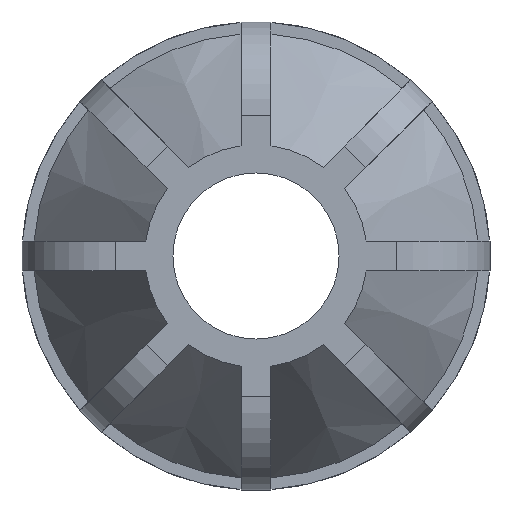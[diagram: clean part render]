
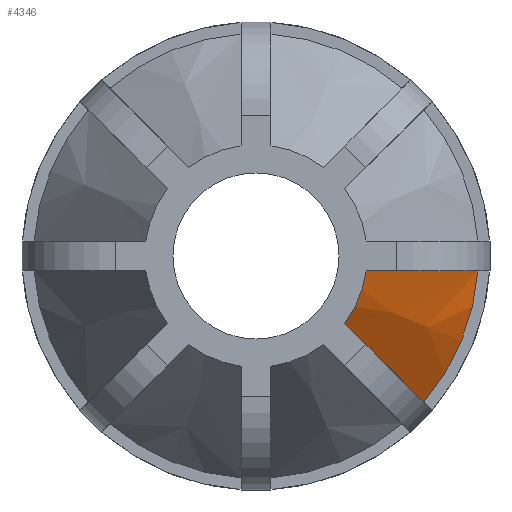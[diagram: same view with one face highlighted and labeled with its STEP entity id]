
A CAD part, left-side view. The second image highlights one B-rep face of the part: STEP entity #4346.
In plain terms, the highlighted conical face has half-angle 33.814 degrees and reference radius 42.717 mm.
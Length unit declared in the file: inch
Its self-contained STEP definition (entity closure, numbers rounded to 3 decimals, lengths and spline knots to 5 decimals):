
#25=CONICAL_SURFACE('',#4693,1.68177,0.59);
#99=(
BOUNDED_CURVE()
B_SPLINE_CURVE(2,(#6999,#7000,#7001),.UNSPECIFIED.,.F.,.F.)
B_SPLINE_CURVE_WITH_KNOTS((3,3),(0.,5.12124),.UNSPECIFIED.)
CURVE()
GEOMETRIC_REPRESENTATION_ITEM()
RATIONAL_B_SPLINE_CURVE((1.,1.061,1.))
REPRESENTATION_ITEM('')
);
#108=(
BOUNDED_CURVE()
B_SPLINE_CURVE(2,(#7179,#7180,#7181),.UNSPECIFIED.,.F.,.F.)
B_SPLINE_CURVE_WITH_KNOTS((3,3),(0.,5.12124),.UNSPECIFIED.)
CURVE()
GEOMETRIC_REPRESENTATION_ITEM()
RATIONAL_B_SPLINE_CURVE((1.,1.061,1.))
REPRESENTATION_ITEM('')
);
#394=FACE_OUTER_BOUND('',#616,.T.);
#616=EDGE_LOOP('',(#3340,#3341,#3342,#3343));
#1500=CIRCLE('',#4689,1.12155);
#1504=CIRCLE('',#4694,2.242);
#1829=VERTEX_POINT('',#6996);
#1830=VERTEX_POINT('',#6998);
#1880=VERTEX_POINT('',#7166);
#1884=VERTEX_POINT('',#7177);
#2342=EDGE_CURVE('',#1830,#1829,#99,.T.);
#2420=EDGE_CURVE('',#1880,#1830,#1500,.T.);
#2426=EDGE_CURVE('',#1884,#1829,#1504,.T.);
#2427=EDGE_CURVE('',#1884,#1880,#108,.T.);
#3340=ORIENTED_EDGE('',*,*,#2342,.T.);
#3341=ORIENTED_EDGE('',*,*,#2426,.F.);
#3342=ORIENTED_EDGE('',*,*,#2427,.T.);
#3343=ORIENTED_EDGE('',*,*,#2420,.T.);
#4346=ADVANCED_FACE('',(#394),#25,.T.);
#4689=AXIS2_PLACEMENT_3D('',#7167,#5563,#5564);
#4693=AXIS2_PLACEMENT_3D('',#7176,#5573,#5574);
#4694=AXIS2_PLACEMENT_3D('',#7178,#5575,#5576);
#5563=DIRECTION('center_axis',(1.,0.,0.));
#5564=DIRECTION('ref_axis',(0.,0.,-1.));
#5573=DIRECTION('center_axis',(1.,0.,0.));
#5574=DIRECTION('ref_axis',(0.,1.,0.));
#5575=DIRECTION('center_axis',(1.,0.,0.));
#5576=DIRECTION('ref_axis',(0.,0.,-1.));
#6996=CARTESIAN_POINT('',(-4.7052,-1.68864,-1.47481));
#6998=CARTESIAN_POINT('',(-6.378,-0.89273,-0.6789));
#6999=CARTESIAN_POINT('Ctrl Pts',(-6.378,-0.89273,-0.6789));
#7000=CARTESIAN_POINT('Ctrl Pts',(-5.82278,-1.15812,-0.94429));
#7001=CARTESIAN_POINT('Ctrl Pts',(-4.7052,-1.68864,-1.47481));
#7166=CARTESIAN_POINT('',(-6.378,-1.11131,-0.1512));
#7167=CARTESIAN_POINT('Origin',(-6.378,0.,0.));
#7176=CARTESIAN_POINT('Origin',(-5.5416,0.,0.));
#7177=CARTESIAN_POINT('',(-4.7052,-2.2369,-0.1512));
#7178=CARTESIAN_POINT('Origin',(-4.7052,0.,0.));
#7179=CARTESIAN_POINT('Ctrl Pts',(-4.7052,-2.2369,-0.1512));
#7180=CARTESIAN_POINT('Ctrl Pts',(-5.82278,-1.48663,-0.1512));
#7181=CARTESIAN_POINT('Ctrl Pts',(-6.378,-1.11131,-0.1512));
